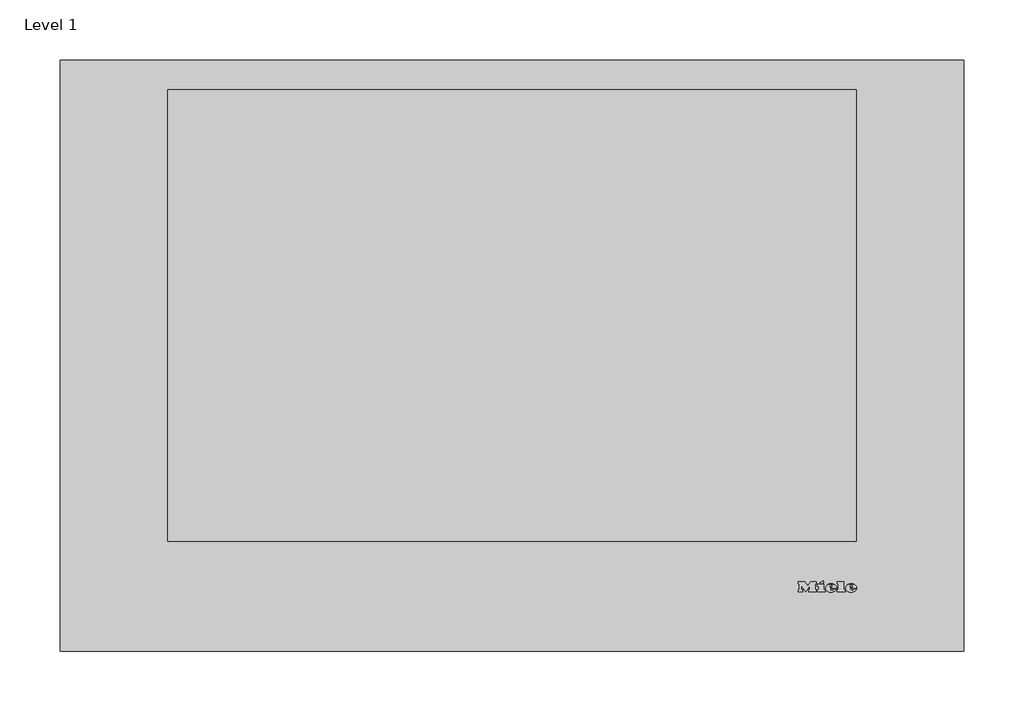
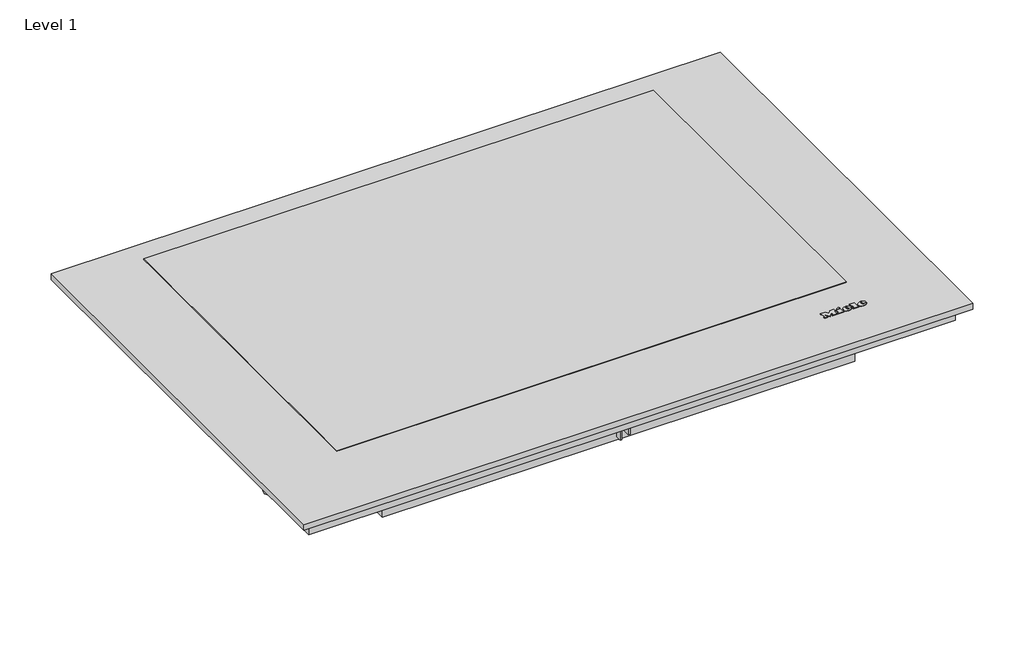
# One storey: 1 proxy.
"""IFC4 building model written with IfcOpenShell, lengths in millimetres."""

from ifc_helpers import new_model, si_unit, origin, place, context, project, spatial, transform, mapped, element, save
from components import specialty_equipment_da10772c

model = new_model("IFC4")

# Units and contexts
model_context = context("Model", 3, world=origin())
ifc_project = project(units=[si_unit("LENGTHUNIT", "METRE", prefix="MILLI")], contexts=[model_context])

# Site, building, storey
site = spatial("IfcSite", under=ifc_project)
building = spatial("IfcBuilding", under=site)
storey = spatial("IfcBuildingStorey", under=building, Name="Level 1", Elevation=0.0)

# Proxy
placement = place(None, origin())
specialty_equipment_shape = specialty_equipment_da10772c(model_context)
element("IfcBuildingElementProxy", 1, Name="11206140_RU_KM7617FX : 26761760_RU_11206140_KM7617FX", ObjectType="11206140_RU_KM7617FX : 26761760_RU_11206140_KM7617FX", at=placement, inside=storey, context=model_context, shape_type="MappedRepresentation", body=[
    mapped(specialty_equipment_shape, transform((0.0, 0.0, 0.0), x_axis=(1.0, 0.0, 0.0), y_axis=(0.0, 1.0, 0.0), z_axis=(0.0, 0.0, 1.0))),
])

save(model, "model.ifc")
